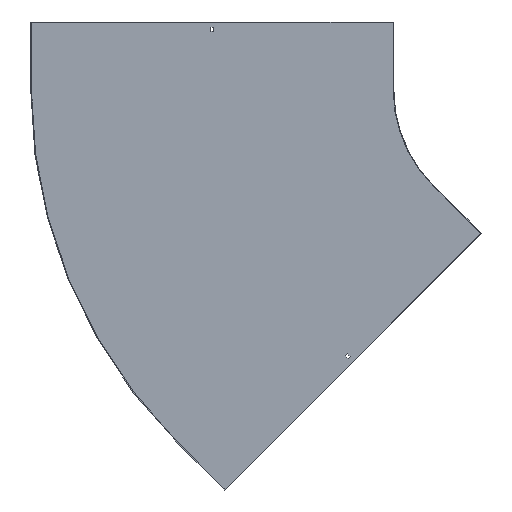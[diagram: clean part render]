
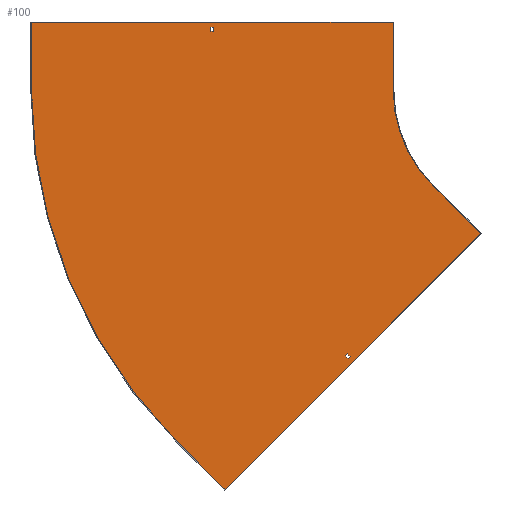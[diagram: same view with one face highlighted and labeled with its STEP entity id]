
A CAD part, front view. The second image highlights one B-rep face of the part: STEP entity #100.
In plain terms, the highlighted planar face has unit normal (0, -1, 0).
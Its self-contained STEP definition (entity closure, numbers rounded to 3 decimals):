
#3 = LINE ( 'NONE', #255, #786 ) ;
#8 = DIRECTION ( 'NONE',  ( -0.707, 0., -0.707 ) ) ;
#26 = CARTESIAN_POINT ( 'NONE',  ( -106.066, -1.5, -318.198 ) ) ;
#45 = VECTOR ( 'NONE', #650, 1000. ) ;
#63 = VERTEX_POINT ( 'NONE', #562 ) ;
#78 = CARTESIAN_POINT ( 'NONE',  ( -671.751, -1.5, -883.883 ) ) ;
#81 = DIRECTION ( 'NONE',  ( -0.707, 0., 0.707 ) ) ;
#82 = DIRECTION ( 'NONE',  ( -0.707, 0., -0.707 ) ) ;
#88 = EDGE_CURVE ( 'NONE', #853, #379, #156, .T. ) ;
#94 = EDGE_CURVE ( 'NONE', #246, #726, #586, .T. ) ;
#95 = ORIENTED_EDGE ( 'NONE', *, *, #273, .F. ) ;
#100 = ADVANCED_FACE ( 'NONE', ( #177, #115, #453 ), #458, .T. ) ;
#110 = CIRCLE ( 'NONE', #462, 300. ) ;
#113 = CARTESIAN_POINT ( 'NONE',  ( -696.75, -1.5, 0. ) ) ;
#115 = FACE_OUTER_BOUND ( 'NONE', #568, .T. ) ;
#123 = EDGE_CURVE ( 'NONE', #394, #652, #3, .T. ) ;
#137 = LINE ( 'NONE', #610, #284 ) ;
#142 = EDGE_CURVE ( 'NONE', #726, #550, #258, .T. ) ;
#148 = EDGE_CURVE ( 'NONE', #505, #63, #856, .T. ) ;
#150 = LINE ( 'NONE', #560, #720 ) ;
#152 = VERTEX_POINT ( 'NONE', #179 ) ;
#153 = CARTESIAN_POINT ( 'NONE',  ( 0., -1.5, 0. ) ) ;
#156 = LINE ( 'NONE', #676, #836 ) ;
#174 = CARTESIAN_POINT ( 'NONE',  ( -399.692, -1.5, -594.854 ) ) ;
#177 = FACE_BOUND ( 'NONE', #814, .T. ) ;
#179 = CARTESIAN_POINT ( 'NONE',  ( -696.75, -1.5, 138. ) ) ;
#183 = AXIS2_PLACEMENT_3D ( 'NONE', #721, #651, #590 ) ;
#189 = EDGE_CURVE ( 'NONE', #318, #707, #740, .T. ) ;
#204 = CARTESIAN_POINT ( 'NONE',  ( 97.581, -1.5, -97.581 ) ) ;
#225 = LINE ( 'NONE', #293, #722 ) ;
#226 = DIRECTION ( 'NONE',  ( 0., 0., 1. ) ) ;
#236 = DIRECTION ( 'NONE',  ( 0., 0., -1. ) ) ;
#241 = VERTEX_POINT ( 'NONE', #276 ) ;
#243 = EDGE_CURVE ( 'NONE', #63, #440, #225, .T. ) ;
#246 = VERTEX_POINT ( 'NONE', #288 ) ;
#255 = CARTESIAN_POINT ( 'NONE',  ( 0., -1.5, 129. ) ) ;
#258 = LINE ( 'NONE', #797, #624 ) ;
#266 = DIRECTION ( 'NONE',  ( -0.707, 0., 0.707 ) ) ;
#267 = CARTESIAN_POINT ( 'NONE',  ( -703.25, -1.5, 129. ) ) ;
#269 = DIRECTION ( 'NONE',  ( 0., 1., 0. ) ) ;
#273 = EDGE_CURVE ( 'NONE', #440, #246, #110, .T. ) ;
#275 = CARTESIAN_POINT ( 'NONE',  ( -671.751, -1.5, -883.883 ) ) ;
#276 = CARTESIAN_POINT ( 'NONE',  ( -703.25, -1.5, 138. ) ) ;
#280 = DIRECTION ( 'NONE',  ( 0., 0., -1. ) ) ;
#284 = VECTOR ( 'NONE', #390, 1000. ) ;
#286 = VECTOR ( 'NONE', #236, 1000. ) ;
#288 = CARTESIAN_POINT ( 'NONE',  ( -212.132, -1.5, -212.132 ) ) ;
#293 = CARTESIAN_POINT ( 'NONE',  ( -300., -1.5, 150. ) ) ;
#294 = CARTESIAN_POINT ( 'NONE',  ( -1100., -1.5, 0. ) ) ;
#318 = VERTEX_POINT ( 'NONE', #174 ) ;
#319 = LINE ( 'NONE', #589, #777 ) ;
#321 = CARTESIAN_POINT ( 'NONE',  ( -212.132, -1.5, -212.132 ) ) ;
#327 = EDGE_LOOP ( 'NONE', ( #620, #817, #744, #849 ) ) ;
#336 = CARTESIAN_POINT ( 'NONE',  ( 0., -1.5, 0. ) ) ;
#340 = CARTESIAN_POINT ( 'NONE',  ( -777.817, -1.5, -777.817 ) ) ;
#352 = ORIENTED_EDGE ( 'NONE', *, *, #520, .F. ) ;
#354 = EDGE_CURVE ( 'NONE', #828, #505, #369, .T. ) ;
#361 = ORIENTED_EDGE ( 'NONE', *, *, #438, .F. ) ;
#366 = ORIENTED_EDGE ( 'NONE', *, *, #142, .F. ) ;
#369 = LINE ( 'NONE', #294, #528 ) ;
#370 = VECTOR ( 'NONE', #266, 1000. ) ;
#377 = EDGE_CURVE ( 'NONE', #152, #394, #567, .T. ) ;
#379 = VERTEX_POINT ( 'NONE', #507 ) ;
#380 = DIRECTION ( 'NONE',  ( 0., 0., 1. ) ) ;
#390 = DIRECTION ( 'NONE',  ( 1., 0., 0. ) ) ;
#394 = VERTEX_POINT ( 'NONE', #767 ) ;
#396 = LINE ( 'NONE', #675, #404 ) ;
#398 = DIRECTION ( 'NONE',  ( 0.707, 0., -0.707 ) ) ;
#404 = VECTOR ( 'NONE', #81, 1000. ) ;
#424 = DIRECTION ( 'NONE',  ( 0., 0., -1. ) ) ;
#438 = EDGE_CURVE ( 'NONE', #379, #318, #319, .T. ) ;
#440 = VERTEX_POINT ( 'NONE', #585 ) ;
#453 = FACE_BOUND ( 'NONE', #327, .T. ) ;
#457 = VECTOR ( 'NONE', #521, 1000. ) ;
#458 = PLANE ( 'NONE',  #183 ) ;
#462 = AXIS2_PLACEMENT_3D ( 'NONE', #153, #549, #424 ) ;
#481 = AXIS2_PLACEMENT_3D ( 'NONE', #336, #269, #784 ) ;
#505 = VERTEX_POINT ( 'NONE', #607 ) ;
#507 = CARTESIAN_POINT ( 'NONE',  ( -406.056, -1.5, -588.49 ) ) ;
#508 = CARTESIAN_POINT ( 'NONE',  ( -1101.5, -1.5, 150. ) ) ;
#520 = EDGE_CURVE ( 'NONE', #554, #828, #860, .T. ) ;
#521 = DIRECTION ( 'NONE',  ( 0.707, 0., -0.707 ) ) ;
#525 = DIRECTION ( 'NONE',  ( -1., 0., 0. ) ) ;
#528 = VECTOR ( 'NONE', #380, 1000. ) ;
#549 = DIRECTION ( 'NONE',  ( 0., -1., 0. ) ) ;
#550 = VERTEX_POINT ( 'NONE', #275 ) ;
#554 = VERTEX_POINT ( 'NONE', #340 ) ;
#560 = CARTESIAN_POINT ( 'NONE',  ( -703.25, -1.5, 0. ) ) ;
#562 = CARTESIAN_POINT ( 'NONE',  ( -300., -1.5, 150. ) ) ;
#567 = LINE ( 'NONE', #113, #286 ) ;
#568 = EDGE_LOOP ( 'NONE', ( #787, #807, #352, #862, #366, #631, #95, #644 ) ) ;
#575 = ORIENTED_EDGE ( 'NONE', *, *, #189, .F. ) ;
#585 = CARTESIAN_POINT ( 'NONE',  ( -300., -1.5, 0. ) ) ;
#586 = LINE ( 'NONE', #321, #457 ) ;
#589 = CARTESIAN_POINT ( 'NONE',  ( -497.273, -1.5, -497.273 ) ) ;
#590 = DIRECTION ( 'NONE',  ( 0., 0., -1. ) ) ;
#593 = VECTOR ( 'NONE', #804, 1000. ) ;
#602 = EDGE_CURVE ( 'NONE', #707, #853, #396, .T. ) ;
#607 = CARTESIAN_POINT ( 'NONE',  ( -1100., -1.5, 150. ) ) ;
#610 = CARTESIAN_POINT ( 'NONE',  ( 0., -1.5, 138. ) ) ;
#620 = ORIENTED_EDGE ( 'NONE', *, *, #852, .T. ) ;
#624 = VECTOR ( 'NONE', #8, 1000. ) ;
#627 = ORIENTED_EDGE ( 'NONE', *, *, #602, .F. ) ;
#631 = ORIENTED_EDGE ( 'NONE', *, *, #94, .F. ) ;
#644 = ORIENTED_EDGE ( 'NONE', *, *, #243, .F. ) ;
#650 = DIRECTION ( 'NONE',  ( 1., 0., 0. ) ) ;
#651 = DIRECTION ( 'NONE',  ( 0., -1., 0. ) ) ;
#652 = VERTEX_POINT ( 'NONE', #267 ) ;
#662 = EDGE_CURVE ( 'NONE', #652, #241, #150, .T. ) ;
#675 = CARTESIAN_POINT ( 'NONE',  ( -492.677, -1.5, -492.677 ) ) ;
#676 = CARTESIAN_POINT ( 'NONE',  ( 91.217, -1.5, -91.217 ) ) ;
#677 = CARTESIAN_POINT ( 'NONE',  ( -395.096, -1.5, -590.257 ) ) ;
#700 = ORIENTED_EDGE ( 'NONE', *, *, #88, .F. ) ;
#707 = VERTEX_POINT ( 'NONE', #677 ) ;
#720 = VECTOR ( 'NONE', #226, 1000. ) ;
#721 = CARTESIAN_POINT ( 'NONE',  ( 0., -1.5, 0. ) ) ;
#722 = VECTOR ( 'NONE', #280, 1000. ) ;
#726 = VERTEX_POINT ( 'NONE', #26 ) ;
#737 = CARTESIAN_POINT ( 'NONE',  ( -401.46, -1.5, -583.893 ) ) ;
#740 = LINE ( 'NONE', #204, #593 ) ;
#744 = ORIENTED_EDGE ( 'NONE', *, *, #123, .T. ) ;
#767 = CARTESIAN_POINT ( 'NONE',  ( -696.75, -1.5, 129. ) ) ;
#777 = VECTOR ( 'NONE', #398, 1000. ) ;
#784 = DIRECTION ( 'NONE',  ( 0., 0., -1. ) ) ;
#786 = VECTOR ( 'NONE', #525, 1000. ) ;
#787 = ORIENTED_EDGE ( 'NONE', *, *, #148, .F. ) ;
#797 = CARTESIAN_POINT ( 'NONE',  ( -105.005, -1.5, -317.137 ) ) ;
#799 = CARTESIAN_POINT ( 'NONE',  ( -1100., -1.5, 0. ) ) ;
#804 = DIRECTION ( 'NONE',  ( 0.707, 0., 0.707 ) ) ;
#807 = ORIENTED_EDGE ( 'NONE', *, *, #354, .F. ) ;
#808 = LINE ( 'NONE', #78, #370 ) ;
#814 = EDGE_LOOP ( 'NONE', ( #627, #575, #361, #700 ) ) ;
#817 = ORIENTED_EDGE ( 'NONE', *, *, #377, .T. ) ;
#823 = EDGE_CURVE ( 'NONE', #550, #554, #808, .T. ) ;
#828 = VERTEX_POINT ( 'NONE', #799 ) ;
#836 = VECTOR ( 'NONE', #82, 1000. ) ;
#849 = ORIENTED_EDGE ( 'NONE', *, *, #662, .T. ) ;
#852 = EDGE_CURVE ( 'NONE', #241, #152, #137, .T. ) ;
#853 = VERTEX_POINT ( 'NONE', #737 ) ;
#856 = LINE ( 'NONE', #508, #45 ) ;
#860 = CIRCLE ( 'NONE', #481, 1100. ) ;
#862 = ORIENTED_EDGE ( 'NONE', *, *, #823, .F. ) ;
